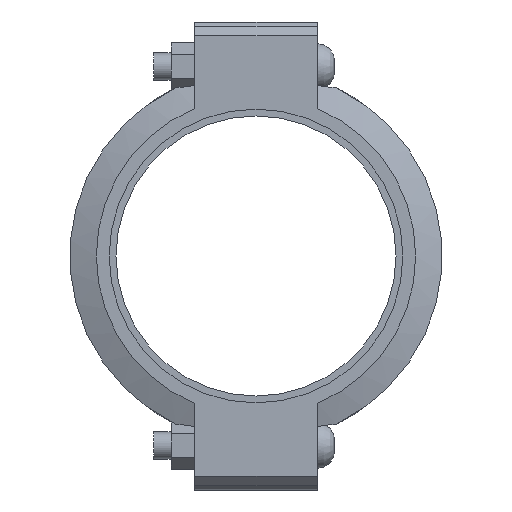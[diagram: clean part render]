
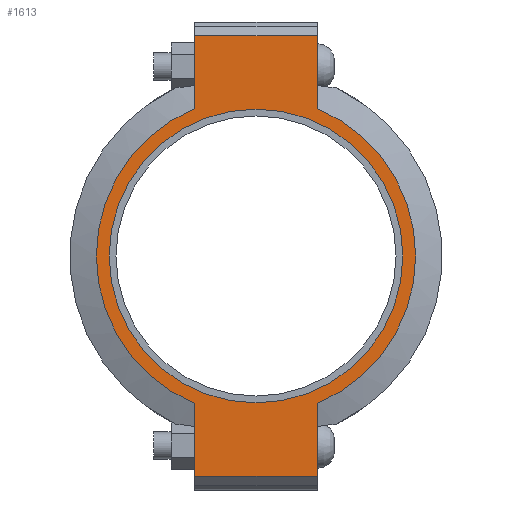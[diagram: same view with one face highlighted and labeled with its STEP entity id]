
A CAD part, left-side view. The second image highlights one B-rep face of the part: STEP entity #1613.
In plain terms, the highlighted planar face has unit normal (-1, 0, 0) as drawn and (0, 0, 1) by its records, which use the part's own axes.
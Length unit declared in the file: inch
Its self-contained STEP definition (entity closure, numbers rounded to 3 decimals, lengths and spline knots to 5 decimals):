
#184=LINE('',#2796,#273);
#195=LINE('',#2847,#284);
#201=LINE('',#2873,#290);
#203=LINE('',#2876,#292);
#204=LINE('',#2881,#293);
#205=LINE('',#2882,#294);
#273=VECTOR('',#2280,0.3937);
#284=VECTOR('',#2311,0.3937);
#290=VECTOR('',#2329,0.3937);
#292=VECTOR('',#2333,0.3937);
#293=VECTOR('',#2338,0.3937);
#294=VECTOR('',#2339,0.3937);
#356=FACE_BOUND('',#533,.T.);
#424=FACE_OUTER_BOUND('',#532,.T.);
#532=EDGE_LOOP('',(#1308,#1309,#1310,#1311,#1312,#1313,#1314,#1315));
#533=EDGE_LOOP('',(#1316));
#615=CIRCLE('',#1850,5.375);
#639=CIRCLE('',#1902,5.845);
#640=CIRCLE('',#1903,5.845);
#711=VERTEX_POINT('',#2622);
#752=VERTEX_POINT('',#2793);
#753=VERTEX_POINT('',#2795);
#770=VERTEX_POINT('',#2842);
#771=VERTEX_POINT('',#2846);
#778=VERTEX_POINT('',#2868);
#779=VERTEX_POINT('',#2872);
#780=VERTEX_POINT('',#2878);
#781=VERTEX_POINT('',#2880);
#875=EDGE_CURVE('',#711,#711,#615,.T.);
#932=EDGE_CURVE('',#753,#752,#184,.T.);
#953=EDGE_CURVE('',#771,#770,#195,.T.);
#964=EDGE_CURVE('',#779,#778,#201,.T.);
#966=EDGE_CURVE('',#779,#752,#203,.T.);
#967=EDGE_CURVE('',#778,#780,#639,.T.);
#968=EDGE_CURVE('',#780,#781,#204,.T.);
#969=EDGE_CURVE('',#771,#781,#205,.T.);
#970=EDGE_CURVE('',#770,#753,#640,.T.);
#1308=ORIENTED_EDGE('',*,*,#966,.F.);
#1309=ORIENTED_EDGE('',*,*,#964,.T.);
#1310=ORIENTED_EDGE('',*,*,#967,.T.);
#1311=ORIENTED_EDGE('',*,*,#968,.T.);
#1312=ORIENTED_EDGE('',*,*,#969,.F.);
#1313=ORIENTED_EDGE('',*,*,#953,.T.);
#1314=ORIENTED_EDGE('',*,*,#970,.T.);
#1315=ORIENTED_EDGE('',*,*,#932,.T.);
#1316=ORIENTED_EDGE('',*,*,#875,.T.);
#1453=PLANE('',#1901);
#1613=ADVANCED_FACE('',(#424,#356),#1453,.T.);
#1850=AXIS2_PLACEMENT_3D('',#2624,#2170,#2171);
#1901=AXIS2_PLACEMENT_3D('',#2877,#2334,#2335);
#1902=AXIS2_PLACEMENT_3D('',#2879,#2336,#2337);
#1903=AXIS2_PLACEMENT_3D('',#2883,#2340,#2341);
#2170=DIRECTION('center_axis',(0.,0.,-1.));
#2171=DIRECTION('ref_axis',(1.,0.,0.));
#2280=DIRECTION('',(1.,0.,0.));
#2311=DIRECTION('',(1.,0.,0.));
#2329=DIRECTION('',(-1.,0.,0.));
#2333=DIRECTION('',(0.,-1.,0.));
#2334=DIRECTION('center_axis',(0.,0.,1.));
#2335=DIRECTION('ref_axis',(-1.,0.,0.));
#2336=DIRECTION('center_axis',(0.,0.,1.));
#2337=DIRECTION('ref_axis',(1.,0.,0.));
#2338=DIRECTION('',(-1.,0.,0.));
#2339=DIRECTION('',(0.,1.,0.));
#2340=DIRECTION('center_axis',(0.,0.,1.));
#2341=DIRECTION('ref_axis',(1.,0.,0.));
#2622=CARTESIAN_POINT('',(-5.375,0.,1.315));
#2624=CARTESIAN_POINT('Origin',(0.,0.,1.315));
#2793=CARTESIAN_POINT('',(8.065,-2.25,1.315));
#2795=CARTESIAN_POINT('',(5.39458,-2.25,1.315));
#2796=CARTESIAN_POINT('',(-8.565,-2.25,1.315));
#2842=CARTESIAN_POINT('',(-5.39458,-2.25,1.315));
#2846=CARTESIAN_POINT('',(-8.065,-2.25,1.315));
#2847=CARTESIAN_POINT('',(-8.565,-2.25,1.315));
#2868=CARTESIAN_POINT('',(5.39458,2.25,1.315));
#2872=CARTESIAN_POINT('',(8.065,2.25,1.315));
#2873=CARTESIAN_POINT('',(8.565,2.25,1.315));
#2876=CARTESIAN_POINT('',(8.065,-1.125,1.315));
#2877=CARTESIAN_POINT('Origin',(0.,0.,
1.315));
#2878=CARTESIAN_POINT('',(-5.39458,2.25,1.315));
#2879=CARTESIAN_POINT('Origin',(0.,0.,1.315));
#2880=CARTESIAN_POINT('',(-8.065,2.25,1.315));
#2881=CARTESIAN_POINT('',(8.565,2.25,1.315));
#2882=CARTESIAN_POINT('',(-8.065,1.125,1.315));
#2883=CARTESIAN_POINT('Origin',(0.,0.,1.315));
